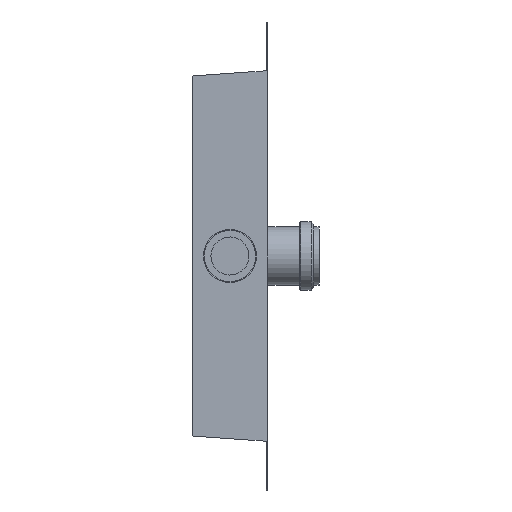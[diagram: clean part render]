
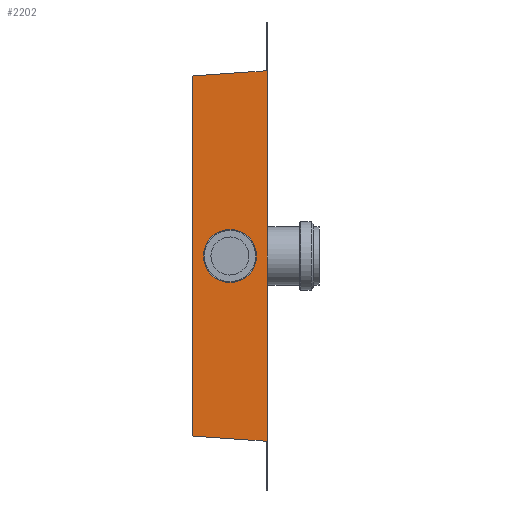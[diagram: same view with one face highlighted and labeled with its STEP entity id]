
A CAD part, front view. The second image highlights one B-rep face of the part: STEP entity #2202.
In plain terms, the highlighted planar face has unit normal (0, -1, 0).
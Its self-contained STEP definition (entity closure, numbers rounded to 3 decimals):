
#123=LINE('',#3306,#325);
#126=LINE('',#3311,#328);
#127=LINE('',#3313,#329);
#128=LINE('',#3314,#330);
#325=VECTOR('',#2731,10.);
#328=VECTOR('',#2736,10.);
#329=VECTOR('',#2737,10.);
#330=VECTOR('',#2738,10.);
#532=PLANE('',#2499);
#635=FACE_BOUND('',#859,.T.);
#702=FACE_OUTER_BOUND('',#858,.T.);
#858=EDGE_LOOP('',(#1622,#1623,#1624,#1625));
#859=EDGE_LOOP('',(#1626));
#1047=CIRCLE('',#2500,25.);
#1105=VERTEX_POINT('',#3304);
#1106=VERTEX_POINT('',#3305);
#1107=VERTEX_POINT('',#3310);
#1108=VERTEX_POINT('',#3312);
#1109=VERTEX_POINT('',#3315);
#1315=EDGE_CURVE('',#1105,#1106,#123,.T.);
#1318=EDGE_CURVE('',#1107,#1106,#126,.T.);
#1319=EDGE_CURVE('',#1107,#1108,#127,.T.);
#1320=EDGE_CURVE('',#1105,#1108,#128,.T.);
#1321=EDGE_CURVE('',#1109,#1109,#1047,.T.);
#1622=ORIENTED_EDGE('',*,*,#1315,.T.);
#1623=ORIENTED_EDGE('',*,*,#1318,.F.);
#1624=ORIENTED_EDGE('',*,*,#1319,.T.);
#1625=ORIENTED_EDGE('',*,*,#1320,.F.);
#1626=ORIENTED_EDGE('',*,*,#1321,.T.);
#2202=ADVANCED_FACE('',(#702,#635),#532,.T.);
#2499=AXIS2_PLACEMENT_3D('',#3309,#2734,#2735);
#2500=AXIS2_PLACEMENT_3D('',#3316,#2739,#2740);
#2731=DIRECTION('',(-0.997,0.,-0.071));
#2734=DIRECTION('center_axis',(0.,-1.,0.));
#2735=DIRECTION('ref_axis',(0.,0.,-1.));
#2736=DIRECTION('',(0.,0.,1.));
#2737=DIRECTION('',(0.997,0.,-0.071));
#2738=DIRECTION('',(0.,0.,-1.));
#2739=DIRECTION('center_axis',(0.,1.,0.));
#2740=DIRECTION('ref_axis',(-1.,0.,0.));
#3304=CARTESIAN_POINT('',(70.,0.,0.));
#3305=CARTESIAN_POINT('',(0.,0.,-5.));
#3306=CARTESIAN_POINT('',(35.178,0.,-2.487));
#3309=CARTESIAN_POINT('Origin',(0.,0.,0.));
#3310=CARTESIAN_POINT('',(0.,0.,-345.));
#3311=CARTESIAN_POINT('',(0.,0.,-350.));
#3312=CARTESIAN_POINT('',(70.,0.,-350.));
#3313=CARTESIAN_POINT('',(22.741,0.,-346.624));
#3314=CARTESIAN_POINT('',(70.,0.,-350.));
#3315=CARTESIAN_POINT('',(60.,0.,-175.));
#3316=CARTESIAN_POINT('Origin',(35.,0.,-175.));
